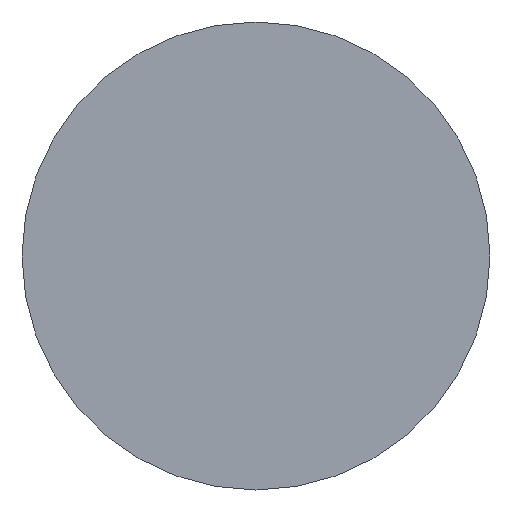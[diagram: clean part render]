
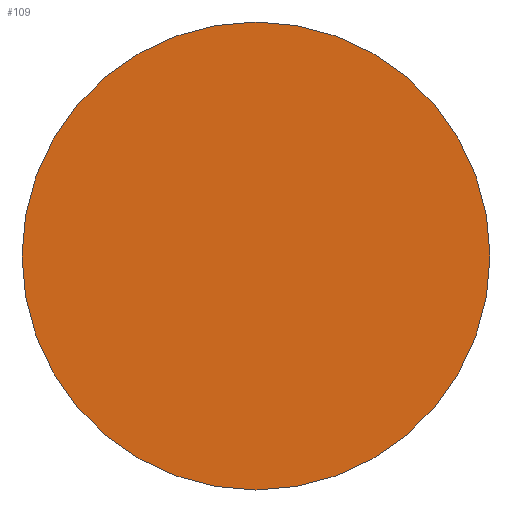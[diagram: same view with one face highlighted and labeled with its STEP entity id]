
A CAD part, front view. The second image highlights one B-rep face of the part: STEP entity #109.
In plain terms, the highlighted planar face has unit normal (0, -1, 0).
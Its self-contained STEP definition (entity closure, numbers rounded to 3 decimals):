
#24 = VERTEX_POINT('',#25);
#25 = CARTESIAN_POINT('',(9.45,-21.45,5.2));
#32 = CYLINDRICAL_SURFACE('',#33,0.95);
#33 = AXIS2_PLACEMENT_3D('',#34,#35,#36);
#34 = CARTESIAN_POINT('',(8.5,-20.25,5.2));
#35 = DIRECTION('',(-0.,1.,0.));
#36 = DIRECTION('',(1.,0.,0.));
#51 = EDGE_CURVE('',#24,#24,#52,.T.);
#52 = SURFACE_CURVE('',#53,(#58,#65),.PCURVE_S1.);
#53 = CIRCLE('',#54,0.95);
#54 = AXIS2_PLACEMENT_3D('',#55,#56,#57);
#55 = CARTESIAN_POINT('',(8.5,-21.45,5.2));
#56 = DIRECTION('',(0.,-1.,0.));
#57 = DIRECTION('',(1.,0.,0.));
#58 = PCURVE('',#32,#59);
#59 = DEFINITIONAL_REPRESENTATION('',(#60),#64);
#60 = LINE('',#61,#62);
#61 = CARTESIAN_POINT('',(-0.,-1.2));
#62 = VECTOR('',#63,1.);
#63 = DIRECTION('',(-1.,0.));
#64 = ( GEOMETRIC_REPRESENTATION_CONTEXT(2) 
PARAMETRIC_REPRESENTATION_CONTEXT() REPRESENTATION_CONTEXT('2D SPACE',''
  ) );
#65 = PCURVE('',#66,#71);
#66 = PLANE('',#67);
#67 = AXIS2_PLACEMENT_3D('',#68,#69,#70);
#68 = CARTESIAN_POINT('',(8.5,-21.45,5.2));
#69 = DIRECTION('',(0.,-1.,0.));
#70 = DIRECTION('',(1.,0.,0.));
#71 = DEFINITIONAL_REPRESENTATION('',(#72),#76);
#72 = CIRCLE('',#73,0.95);
#73 = AXIS2_PLACEMENT_2D('',#74,#75);
#74 = CARTESIAN_POINT('',(0.,0.));
#75 = DIRECTION('',(1.,0.));
#76 = ( GEOMETRIC_REPRESENTATION_CONTEXT(2) 
PARAMETRIC_REPRESENTATION_CONTEXT() REPRESENTATION_CONTEXT('2D SPACE',''
  ) );
#109 = ADVANCED_FACE('',(#110),#66,.T.);
#110 = FACE_BOUND('',#111,.T.);
#111 = EDGE_LOOP('',(#112));
#112 = ORIENTED_EDGE('',*,*,#51,.T.);
